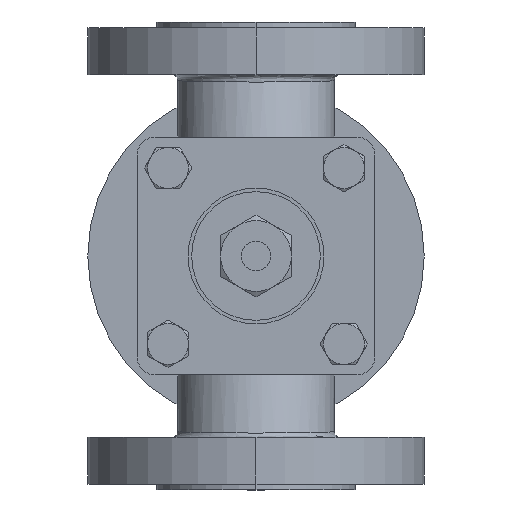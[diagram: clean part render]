
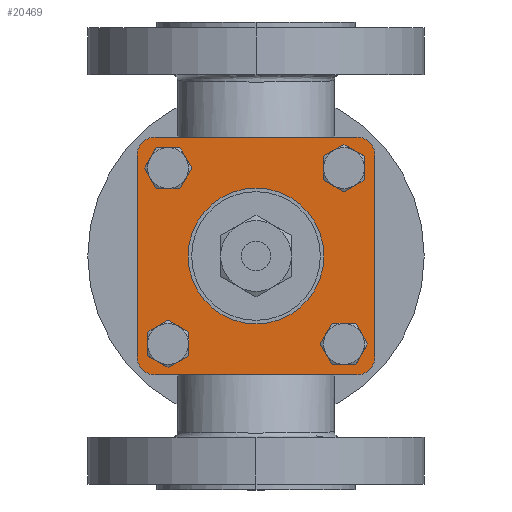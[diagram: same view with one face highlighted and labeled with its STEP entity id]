
A CAD part, front view. The second image highlights one B-rep face of the part: STEP entity #20469.
In plain terms, the highlighted planar face has unit normal (0, -1, 0).
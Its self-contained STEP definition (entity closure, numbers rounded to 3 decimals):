
#20235=CARTESIAN_POINT('',(-38.837,-100.915,41.163));
#20236=VERTEX_POINT('',#20235);
#20245=CARTESIAN_POINT('',(-40.67,-100.915,45.587));
#20246=VERTEX_POINT('',#20245);
#20247=CARTESIAN_POINT('',(-34.413,-100.915,45.587));
#20248=DIRECTION('',(0.,-1.,0.));
#20249=DIRECTION('',(-0.707,0.,-0.707));
#20250=AXIS2_PLACEMENT_3D('',#20247,#20248,#20249);
#20251=CIRCLE('',#20250,6.257);
#20252=EDGE_CURVE('',#20246,#20236,#20251,.T.);
#20279=CARTESIAN_POINT('',(-38.837,-100.915,118.837));
#20280=VERTEX_POINT('',#20279);
#20296=CARTESIAN_POINT('',(-40.67,-100.915,114.413));
#20297=VERTEX_POINT('',#20296);
#20304=CARTESIAN_POINT('',(-34.413,-100.915,114.413));
#20305=DIRECTION('',(0.,-1.,0.));
#20306=DIRECTION('',(-0.707,0.,0.707));
#20307=AXIS2_PLACEMENT_3D('',#20304,#20305,#20306);
#20308=CIRCLE('',#20307,6.257);
#20309=EDGE_CURVE('',#20280,#20297,#20308,.T.);
#20321=CARTESIAN_POINT('',(38.837,-100.915,41.163));
#20322=VERTEX_POINT('',#20321);
#20338=CARTESIAN_POINT('',(40.67,-100.915,45.587));
#20339=VERTEX_POINT('',#20338);
#20346=CARTESIAN_POINT('',(34.413,-100.915,45.587));
#20347=DIRECTION('',(0.,-1.,0.));
#20348=DIRECTION('',(0.707,0.,-0.707));
#20349=AXIS2_PLACEMENT_3D('',#20346,#20347,#20348);
#20350=CIRCLE('',#20349,6.257);
#20351=EDGE_CURVE('',#20322,#20339,#20350,.T.);
#20361=CARTESIAN_POINT('',(38.837,-100.915,118.837));
#20362=VERTEX_POINT('',#20361);
#20371=CARTESIAN_POINT('',(40.67,-100.915,114.413));
#20372=VERTEX_POINT('',#20371);
#20373=CARTESIAN_POINT('',(34.413,-100.915,114.413));
#20374=DIRECTION('',(0.,-1.,0.));
#20375=DIRECTION('',(0.707,0.,0.707));
#20376=AXIS2_PLACEMENT_3D('',#20373,#20374,#20375);
#20377=CIRCLE('',#20376,6.257);
#20378=EDGE_CURVE('',#20372,#20362,#20377,.T.);
#20398=CARTESIAN_POINT('',(0.0,-100.915,80.));
#20399=DIRECTION('',(0.0,1.0,0.0));
#20400=DIRECTION('',(0.0,0.0,-1.0));
#20401=AXIS2_PLACEMENT_3D('',#20398,#20399,#20400);
#20402=PLANE('',#20401);
#20403=CARTESIAN_POINT('',(34.413,-100.915,39.33));
#20404=VERTEX_POINT('',#20403);
#20405=CARTESIAN_POINT('',(34.413,-100.915,45.587));
#20406=DIRECTION('',(0.,-1.,0.));
#20407=DIRECTION('',(0.707,0.,-0.707));
#20408=AXIS2_PLACEMENT_3D('',#20405,#20406,#20407);
#20409=CIRCLE('',#20408,6.257);
#20410=EDGE_CURVE('',#20404,#20322,#20409,.T.);
#20411=ORIENTED_EDGE('',*,*,#20410,.T.);
#20412=ORIENTED_EDGE('',*,*,#20351,.T.);
#20413=CARTESIAN_POINT('',(40.67,-100.915,45.587));
#20414=DIRECTION('',(0.0,0.0,1.0));
#20415=VECTOR('',#20414,68.826);
#20416=LINE('',#20413,#20415);
#20417=EDGE_CURVE('',#20339,#20372,#20416,.T.);
#20418=ORIENTED_EDGE('',*,*,#20417,.T.);
#20419=ORIENTED_EDGE('',*,*,#20378,.T.);
#20420=CARTESIAN_POINT('',(34.413,-100.915,120.67));
#20421=VERTEX_POINT('',#20420);
#20422=CARTESIAN_POINT('',(34.413,-100.915,114.413));
#20423=DIRECTION('',(0.,-1.,0.));
#20424=DIRECTION('',(0.707,0.,0.707));
#20425=AXIS2_PLACEMENT_3D('',#20422,#20423,#20424);
#20426=CIRCLE('',#20425,6.257);
#20427=EDGE_CURVE('',#20362,#20421,#20426,.T.);
#20428=ORIENTED_EDGE('',*,*,#20427,.T.);
#20429=CARTESIAN_POINT('',(-34.413,-100.915,120.67));
#20430=VERTEX_POINT('',#20429);
#20431=CARTESIAN_POINT('',(34.413,-100.915,120.67));
#20432=DIRECTION('',(-1.0,0.0,0.0));
#20433=VECTOR('',#20432,68.826);
#20434=LINE('',#20431,#20433);
#20435=EDGE_CURVE('',#20421,#20430,#20434,.T.);
#20436=ORIENTED_EDGE('',*,*,#20435,.T.);
#20437=CARTESIAN_POINT('',(-34.413,-100.915,114.413));
#20438=DIRECTION('',(0.,-1.,0.));
#20439=DIRECTION('',(-0.707,0.,0.707));
#20440=AXIS2_PLACEMENT_3D('',#20437,#20438,#20439);
#20441=CIRCLE('',#20440,6.257);
#20442=EDGE_CURVE('',#20430,#20280,#20441,.T.);
#20443=ORIENTED_EDGE('',*,*,#20442,.T.);
#20444=ORIENTED_EDGE('',*,*,#20309,.T.);
#20445=CARTESIAN_POINT('',(-40.67,-100.915,114.413));
#20446=DIRECTION('',(0.0,0.0,-1.0));
#20447=VECTOR('',#20446,68.826);
#20448=LINE('',#20445,#20447);
#20449=EDGE_CURVE('',#20297,#20246,#20448,.T.);
#20450=ORIENTED_EDGE('',*,*,#20449,.T.);
#20451=ORIENTED_EDGE('',*,*,#20252,.T.);
#20452=CARTESIAN_POINT('',(-34.413,-100.915,39.33));
#20453=VERTEX_POINT('',#20452);
#20454=CARTESIAN_POINT('',(-34.413,-100.915,45.587));
#20455=DIRECTION('',(0.,-1.,0.));
#20456=DIRECTION('',(-0.707,0.,-0.707));
#20457=AXIS2_PLACEMENT_3D('',#20454,#20455,#20456);
#20458=CIRCLE('',#20457,6.257);
#20459=EDGE_CURVE('',#20236,#20453,#20458,.T.);
#20460=ORIENTED_EDGE('',*,*,#20459,.T.);
#20461=CARTESIAN_POINT('',(-34.413,-100.915,39.33));
#20462=DIRECTION('',(1.0,0.0,0.0));
#20463=VECTOR('',#20462,68.826);
#20464=LINE('',#20461,#20463);
#20465=EDGE_CURVE('',#20453,#20404,#20464,.T.);
#20466=ORIENTED_EDGE('',*,*,#20465,.T.);
#20467=EDGE_LOOP('',(#20411,#20412,#20418,#20419,#20428,#20436,#20443,#20444,#20450,#20451,#20460,#20466));
#20468=FACE_OUTER_BOUND('',#20467,.T.);
#20469=ADVANCED_FACE('',(#20468),#20402,.F.);
